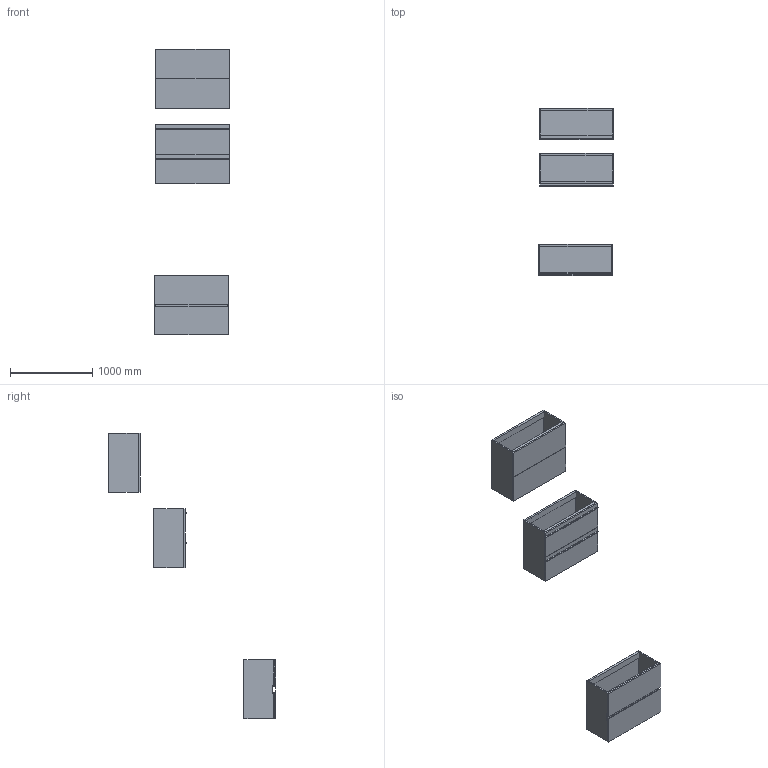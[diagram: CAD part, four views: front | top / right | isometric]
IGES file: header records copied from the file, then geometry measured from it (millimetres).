
Start section: Data from Parasolid IGES Translator 19.0.9, Copyright(c) 2006 Siemens PL M Software. All Rights Reserved.
Global section: file name: noorth-SI-H 72 D 38,8 W 90_8595.igs; native system: By Siemens PLM Incorporated; preprocessor: XPlus GENERIC/IGES 19.0.9; author: Noname; organization: Noname; date: 20200601.114835; units: metre
Bounding box: 911.38 x 2036 x 3480.32 mm (x, y, z)
Volume: 89534389.6 mm3; surface area: 14212615.4 mm2
Topology: 27 solids, 27 shells, 266 faces, 580 edges, 348 vertices
Faces by surface type: plane 182, extrusion 36, bspline 32, cylinder 16
